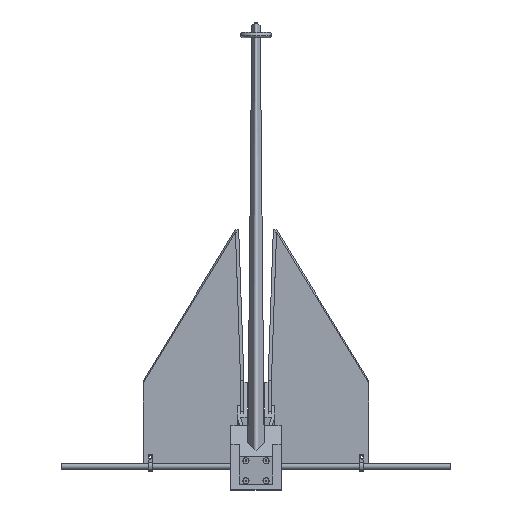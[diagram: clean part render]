
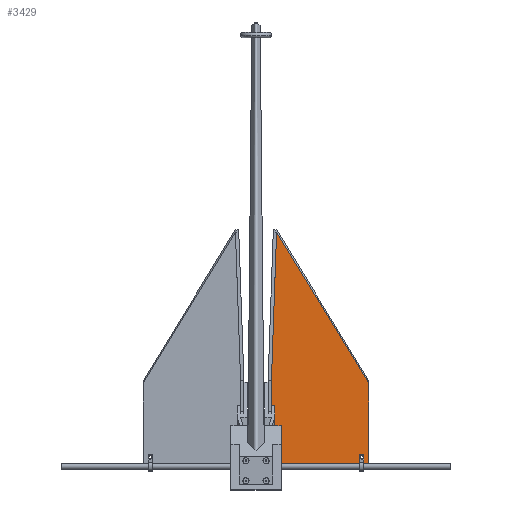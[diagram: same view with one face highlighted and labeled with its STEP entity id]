
A CAD part, front view. The second image highlights one B-rep face of the part: STEP entity #3429.
In plain terms, the highlighted planar face has unit normal (0, -1, 0) as drawn and (0, 0, -1) by its records, which use the part's own axes.
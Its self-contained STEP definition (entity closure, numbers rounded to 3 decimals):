
#2705 = VERTEX_POINT ( 'NONE', #5382 ) ;
#2707 = VERTEX_POINT ( 'NONE', #5384 ) ;
#2714 = VERTEX_POINT ( 'NONE', #5391 ) ;
#2718 = VERTEX_POINT ( 'NONE', #5395 ) ;
#2719 = VERTEX_POINT ( 'NONE', #5396 ) ;
#2723 = VERTEX_POINT ( 'NONE', #5400 ) ;
#2729 = VERTEX_POINT ( 'NONE', #5406 ) ;
#2730 = VERTEX_POINT ( 'NONE', #5407 ) ;
#2731 = VERTEX_POINT ( 'NONE', #5408 ) ;
#3429 = ADVANCED_FACE ( 'NONE', ( #5963, #5957 ), #5965, .F. ) ;
#3450 = EDGE_CURVE ( 'NONE', #2707, #2714, #6190, .T. ) ;
#3461 = EDGE_CURVE ( 'NONE', #2714, #2707, #6228, .T. ) ;
#3462 = EDGE_CURVE ( 'NONE', #2719, #2729, #6080, .T. ) ;
#3463 = EDGE_CURVE ( 'NONE', #2719, #2731, #6100, .T. ) ;
#3464 = EDGE_CURVE ( 'NONE', #2730, #2731, #6099, .T. ) ;
#3465 = EDGE_CURVE ( 'NONE', #2718, #2730, #6104, .T. ) ;
#3466 = EDGE_CURVE ( 'NONE', #2705, #2718, #6107, .T. ) ;
#3467 = EDGE_CURVE ( 'NONE', #2723, #2705, #6110, .T. ) ;
#3468 = EDGE_CURVE ( 'NONE', #2729, #2723, #6113, .T. ) ;
#3923 = EDGE_LOOP ( 'NONE', ( #7285, #7286, #7283, #7322, #7323, #7327, #7332 ) ) ;
#3925 = EDGE_LOOP ( 'NONE', ( #7290, #7319 ) ) ;
#5382 = CARTESIAN_POINT ( 'NONE',  ( 0., -123., -2.5 ) ) ;
#5384 = CARTESIAN_POINT ( 'NONE',  ( -142.5, -115., -2.5 ) ) ;
#5391 = CARTESIAN_POINT ( 'NONE',  ( -137.5, -115., -2.5 ) ) ;
#5395 = CARTESIAN_POINT ( 'NONE',  ( -5., -123., -2.5 ) ) ;
#5396 = CARTESIAN_POINT ( 'NONE',  ( -150., -3.843, -2.5 ) ) ;
#5400 = CARTESIAN_POINT ( 'NONE',  ( 0., -125., -2.5 ) ) ;
#5406 = CARTESIAN_POINT ( 'NONE',  ( -150., -125., -2.5 ) ) ;
#5407 = CARTESIAN_POINT ( 'NONE',  ( -5., 0., -2.5 ) ) ;
#5408 = CARTESIAN_POINT ( 'NONE',  ( -12.73, 221.365, -2.5 ) ) ;
#5957 = FACE_OUTER_BOUND ( 'NONE', #3923, .T. ) ;
#5960 = DIRECTION ( 'NONE',  ( 0., 0., 1. ) ) ;
#5962 = CARTESIAN_POINT ( 'NONE',  ( 0., -125., -2.5 ) ) ;
#5963 = FACE_BOUND ( 'NONE', #3925, .T. ) ;
#5965 = PLANE ( 'NONE',  #6196 ) ;
#5967 = DIRECTION ( 'NONE',  ( 1., 0., 0. ) ) ;
#6066 = CARTESIAN_POINT ( 'NONE',  ( -140., -115., -2.5 ) ) ;
#6067 = DIRECTION ( 'NONE',  ( 0., 0., 1. ) ) ;
#6068 = DIRECTION ( 'NONE',  ( 1., 0., 0. ) ) ;
#6075 = CARTESIAN_POINT ( 'NONE',  ( -150., 0., -2.5 ) ) ;
#6080 = LINE ( 'NONE', #6075, #6229 ) ;
#6099 = LINE ( 'NONE', #6109, #6231 ) ;
#6100 = LINE ( 'NONE', #6106, #6222 ) ;
#6101 = CARTESIAN_POINT ( 'NONE',  ( -140., -115., -2.5 ) ) ;
#6102 = DIRECTION ( 'NONE',  ( 0., 0., 1. ) ) ;
#6103 = DIRECTION ( 'NONE',  ( 1., 0., 0. ) ) ;
#6104 = LINE ( 'NONE', #6112, #6232 ) ;
#6105 = DIRECTION ( 'NONE',  ( 0., -1., 0. ) ) ;
#6106 = CARTESIAN_POINT ( 'NONE',  ( -163.212, -25.518, -2.5 ) ) ;
#6107 = LINE ( 'NONE', #6115, #6233 ) ;
#6108 = DIRECTION ( 'NONE',  ( 0.52, 0.854, 0. ) ) ;
#6109 = CARTESIAN_POINT ( 'NONE',  ( -0.634, -125.022, -2.5 ) ) ;
#6110 = LINE ( 'NONE', #6118, #6234 ) ;
#6111 = DIRECTION ( 'NONE',  ( -0.035, 0.999, 0. ) ) ;
#6112 = CARTESIAN_POINT ( 'NONE',  ( -5., -125., -2.5 ) ) ;
#6113 = LINE ( 'NONE', #6121, #6235 ) ;
#6114 = DIRECTION ( 'NONE',  ( 0., 1., 0. ) ) ;
#6115 = CARTESIAN_POINT ( 'NONE',  ( 0., -123., -2.5 ) ) ;
#6117 = DIRECTION ( 'NONE',  ( -1., 0., 0. ) ) ;
#6118 = CARTESIAN_POINT ( 'NONE',  ( 0., -125., -2.5 ) ) ;
#6120 = DIRECTION ( 'NONE',  ( 0., 1., 0. ) ) ;
#6121 = CARTESIAN_POINT ( 'NONE',  ( -150., -125., -2.5 ) ) ;
#6123 = DIRECTION ( 'NONE',  ( 1., 0., 0. ) ) ;
#6190 = CIRCLE ( 'NONE', #6216, 2.5 ) ;
#6196 = AXIS2_PLACEMENT_3D ( 'NONE', #5962, #5960, #5967 ) ;
#6216 = AXIS2_PLACEMENT_3D ( 'NONE', #6066, #6067, #6068 ) ;
#6222 = VECTOR ( 'NONE', #6108, 1000. ) ;
#6228 = CIRCLE ( 'NONE', #6230, 2.5 ) ;
#6229 = VECTOR ( 'NONE', #6105, 1000. ) ;
#6230 = AXIS2_PLACEMENT_3D ( 'NONE', #6101, #6102, #6103 ) ;
#6231 = VECTOR ( 'NONE', #6111, 1000. ) ;
#6232 = VECTOR ( 'NONE', #6114, 1000. ) ;
#6233 = VECTOR ( 'NONE', #6117, 1000. ) ;
#6234 = VECTOR ( 'NONE', #6120, 1000. ) ;
#6235 = VECTOR ( 'NONE', #6123, 1000. ) ;
#7283 = ORIENTED_EDGE ( 'NONE', *, *, #3464, .F. ) ;
#7285 = ORIENTED_EDGE ( 'NONE', *, *, #3462, .F. ) ;
#7286 = ORIENTED_EDGE ( 'NONE', *, *, #3463, .T. ) ;
#7290 = ORIENTED_EDGE ( 'NONE', *, *, #3461, .T. ) ;
#7319 = ORIENTED_EDGE ( 'NONE', *, *, #3450, .T. ) ;
#7322 = ORIENTED_EDGE ( 'NONE', *, *, #3465, .F. ) ;
#7323 = ORIENTED_EDGE ( 'NONE', *, *, #3466, .F. ) ;
#7327 = ORIENTED_EDGE ( 'NONE', *, *, #3467, .F. ) ;
#7332 = ORIENTED_EDGE ( 'NONE', *, *, #3468, .F. ) ;
